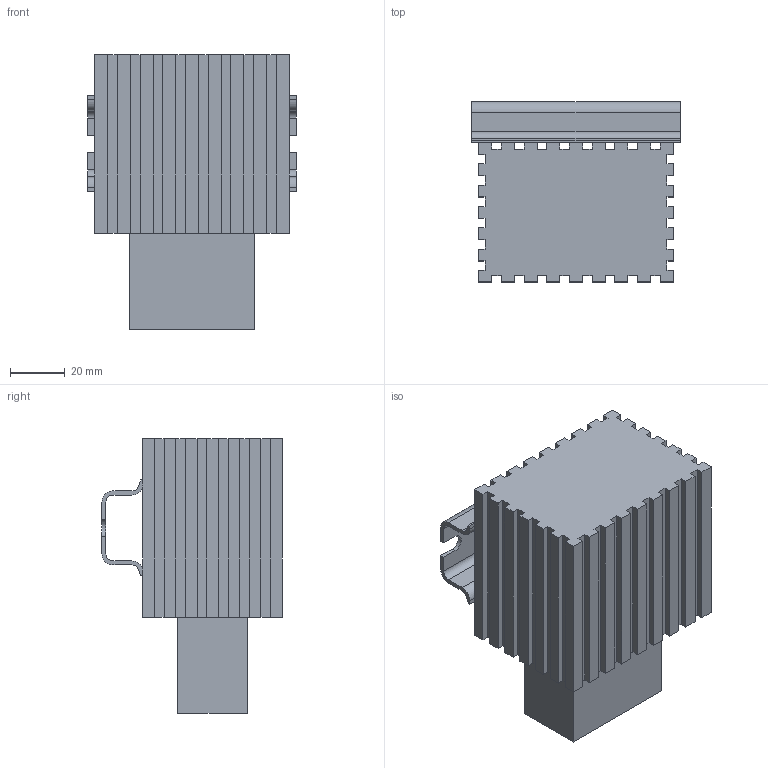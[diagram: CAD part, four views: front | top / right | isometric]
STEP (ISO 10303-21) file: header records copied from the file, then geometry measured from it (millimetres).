
FILE_DESCRIPTION(/* description */ ('Unknown'),/* implementation_level */ '2;1');
FILE_NAME(/* name */ 'SHG14001',/* time_stamp */ '2018-01-16T16:06:53-05:00',/* author */ ('Unknown'),/* organization */ ('Unknown'),/* preprocessor_version */ 'ST-DEVELOPER v16.7',/* originating_system */ 'DEX',/* authorisation */ $);
FILE_SCHEMA (('AUTOMOTIVE_DESIGN {1 0 10303 214 3 1 1}'));
Length unit declared in the file: millimetre
Products named in the file (3): SHG14001; SHG14001_RAIL
Assembly tree (2 placements, depth 2):
  SHG14001
    SHG14001_RAIL
    SHG14001
Bounding box: 76.2 x 65.79 x 100.08 mm (x, y, z)
Volume: 266182.5 mm3; surface area: 44708 mm2
Topology: 2 solids, 2 shells, 161 faces, 468 edges, 312 vertices
Faces by surface type: plane 147, cylinder 14
Entity records: 5297 total; most frequent: CARTESIAN_POINT 944, ORIENTED_EDGE 936, DIRECTION 824, EDGE_CURVE 468, LINE 440, VECTOR 440, VERTEX_POINT 312, AXIS2_PLACEMENT_3D 192
